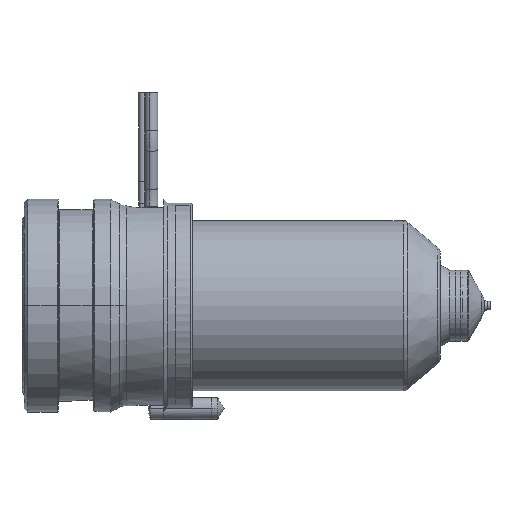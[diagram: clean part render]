
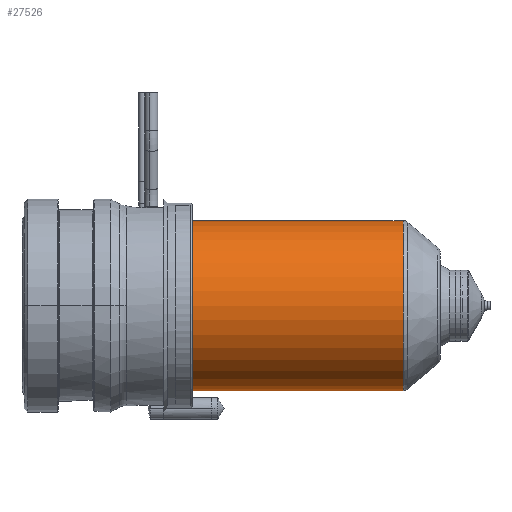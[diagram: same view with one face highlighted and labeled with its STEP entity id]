
A CAD part, left-side view. The second image highlights one B-rep face of the part: STEP entity #27526.
In plain terms, the highlighted cylindrical face has radius 12 mm (diameter 24 mm), a partial arc.
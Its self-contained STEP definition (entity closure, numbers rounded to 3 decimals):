
#26911=CARTESIAN_POINT('',(0.,-53.736,0.));
#26912=DIRECTION('',(0.,-1.,0.));
#26913=DIRECTION('',(0.,0.,1.));
#26914=AXIS2_PLACEMENT_3D('',#26911,#26912,#26913);
#26919=CARTESIAN_POINT('',(0.,-24.,0.));
#26920=DIRECTION('',(0.,1.,0.));
#26921=DIRECTION('',(0.,0.,-1.));
#26922=AXIS2_PLACEMENT_3D('',#26919,#26920,#26921);
#26927=DIRECTION('',(0.,1.,0.));
#26928=VECTOR('',#26927,29.736);
#26929=CARTESIAN_POINT('',(0.,-53.736,12.));
#26930=LINE('',#26929,#26928);
#26942=DIRECTION('',(0.,1.,0.));
#26943=VECTOR('',#26942,29.736);
#26944=CARTESIAN_POINT('',(0.,-53.736,-12.));
#26945=LINE('',#26944,#26943);
#27131=CARTESIAN_POINT('',(0.,-53.736,12.));
#27132=CARTESIAN_POINT('',(0.,-24.,12.));
#27133=VERTEX_POINT('',#27131);
#27134=VERTEX_POINT('',#27132);
#27135=CARTESIAN_POINT('',(0.,-53.736,-12.));
#27136=CARTESIAN_POINT('',(0.,-24.,-12.));
#27137=VERTEX_POINT('',#27135);
#27138=VERTEX_POINT('',#27136);
#27512=CARTESIAN_POINT('',(0.,-17.7,0.));
#27513=DIRECTION('',(0.,-1.,0.));
#27514=DIRECTION('',(0.,0.,1.));
#27515=AXIS2_PLACEMENT_3D('',#27512,#27513,#27514);
#27516=CYLINDRICAL_SURFACE('',#27515,12.);
#27518=ORIENTED_EDGE('',*,*,#27517,.F.);
#27519=ORIENTED_EDGE('',*,*,#27507,.T.);
#27521=ORIENTED_EDGE('',*,*,#27520,.T.);
#27523=ORIENTED_EDGE('',*,*,#27522,.T.);
#27524=EDGE_LOOP('',(#27518,#27519,#27521,#27523));
#27525=FACE_OUTER_BOUND('',#27524,.F.);
#27526=ADVANCED_FACE('',(#27525),#27516,.T.);
#26915=CIRCLE('',#26914,12.);
#26923=CIRCLE('',#26922,12.);
#27507=EDGE_CURVE('',#27133,#27137,#26915,.T.);
#27517=EDGE_CURVE('',#27133,#27134,#26930,.T.);
#27520=EDGE_CURVE('',#27137,#27138,#26945,.T.);
#27522=EDGE_CURVE('',#27138,#27134,#26923,.T.);
